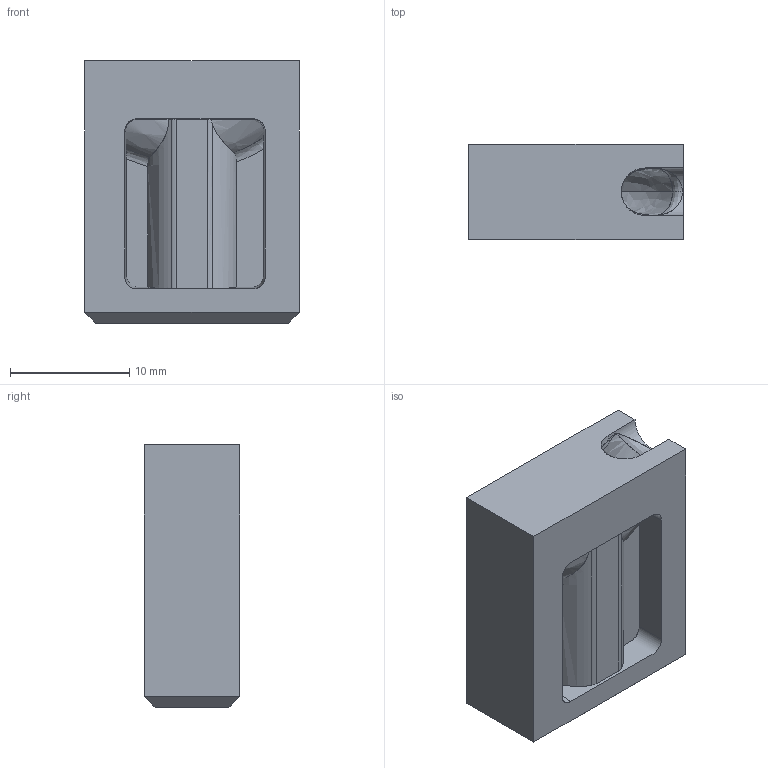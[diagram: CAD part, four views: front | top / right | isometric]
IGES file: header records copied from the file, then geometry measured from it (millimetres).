
Start section: START RECORD GO HERE.
Global section: file name: tgc1.igs; native system: DASSAULT SYSTEMES CATIA V5 R20 - www.3ds.com; preprocessor: CATIA Version 5 Release 20 ; author: Utente; organization: NB04-ASUS; date: 20210304.200850; units: millimetre
Bounding box: 18 x 8 x 22 mm (x, y, z)
Surface area: 2110.2 mm2 (no closed solid volume)
Topology: 0 solids, 0 shells, 97 faces, 568 edges, 553 vertices
Faces by surface type: revolution 46, bspline 26, plane 25
